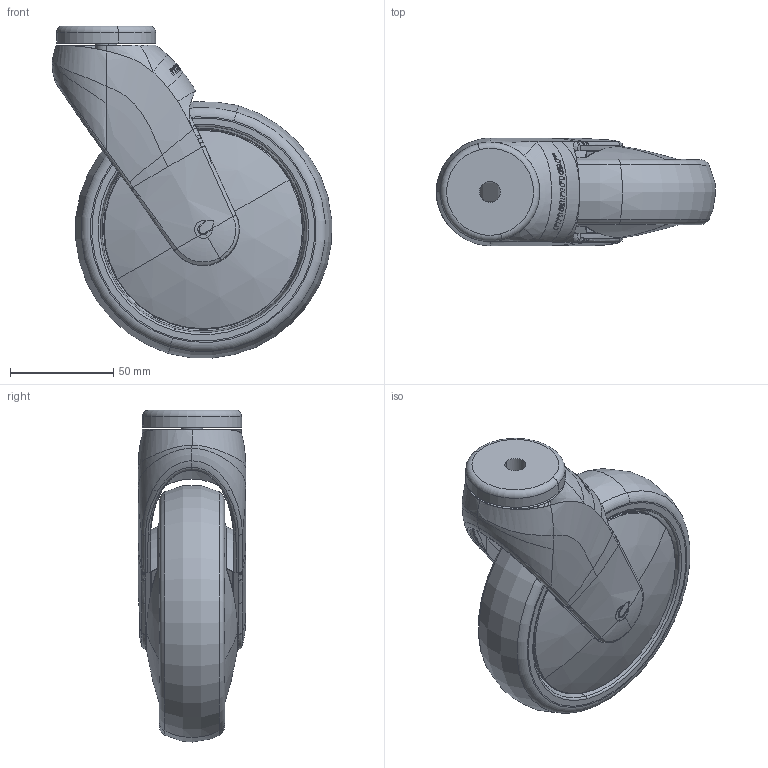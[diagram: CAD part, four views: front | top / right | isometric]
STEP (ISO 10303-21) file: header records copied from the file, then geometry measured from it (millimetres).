
FILE_DESCRIPTION (( 'STEP AP203' ), '1' );
FILE_NAME ('301637.STEP', '2010-03-18T05:28:27', ( ' ' ), ( ' ' ), 'SwSTEP 2.0', 'SolidWorks 2007', '' );
FILE_SCHEMA (( 'CONFIG_CONTROL_DESIGN' ));
Length unit declared in the file: millimetre
Products named in the file (1): 301637
Bounding box: 135.08 x 52.08 x 160.46 mm (x, y, z)
Surface area: 98308.1 mm2 (no closed solid volume)
Topology: 0 solids, 13 shells, 351 faces, 1278 edges, 884 vertices
Faces by surface type: bspline 200, plane 56, torus 40, cylinder 27, cone 22, sphere 6
Entity records: 92647 total; most frequent: CARTESIAN_POINT 84384, ORIENTED_EDGE 2123, EDGE_CURVE 1272, VERTEX_POINT 884, B_SPLINE_CURVE_WITH_KNOTS 855, DIRECTION 852, EDGE_LOOP 378, AXIS2_PLACEMENT_3D 362
